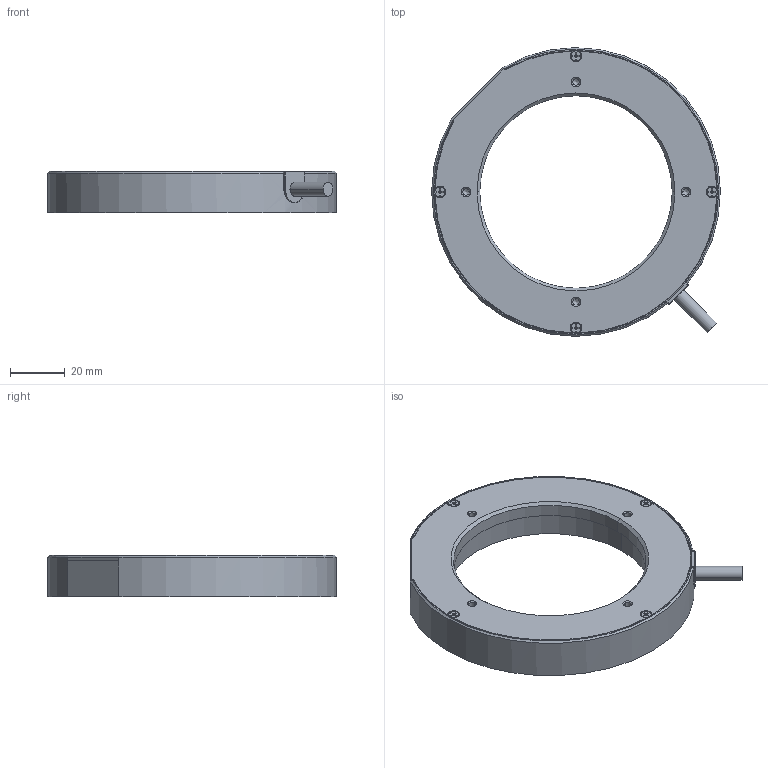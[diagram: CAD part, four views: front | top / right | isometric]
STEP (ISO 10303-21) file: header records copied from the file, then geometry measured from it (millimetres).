
FILE_DESCRIPTION((''),'2;1');
FILE_NAME('MV-LRDS-H-105-00-W','2022-09-02T15:17:58',('qiaoxuan5'),(''),'CREO PARAMETRIC BY PTC INC, 2020044','CREO PARAMETRIC BY PTC INC, 2020044','');
FILE_SCHEMA(('CONFIG_CONTROL_DESIGN'));
Length unit declared in the file: metre
Products named in the file (1): MV-LRDS-H-105-00-W
Bounding box: 105 x 105 x 15 mm (x, y, z)
Volume: 66913.4 mm3; surface area: 22167.1 mm2
Topology: 1 solids, 13 shells, 510 faces, 1233 edges, 737 vertices
Faces by surface type: plane 260, cylinder 146, cone 78, torus 20, sphere 6
Entity records: 14834 total; most frequent: CARTESIAN_POINT 2899, DIRECTION 2539, ORIENTED_EDGE 2434, EDGE_CURVE 1217, AXIS2_PLACEMENT_3D 918, VERTEX_POINT 737, VECTOR 703, LINE 703
